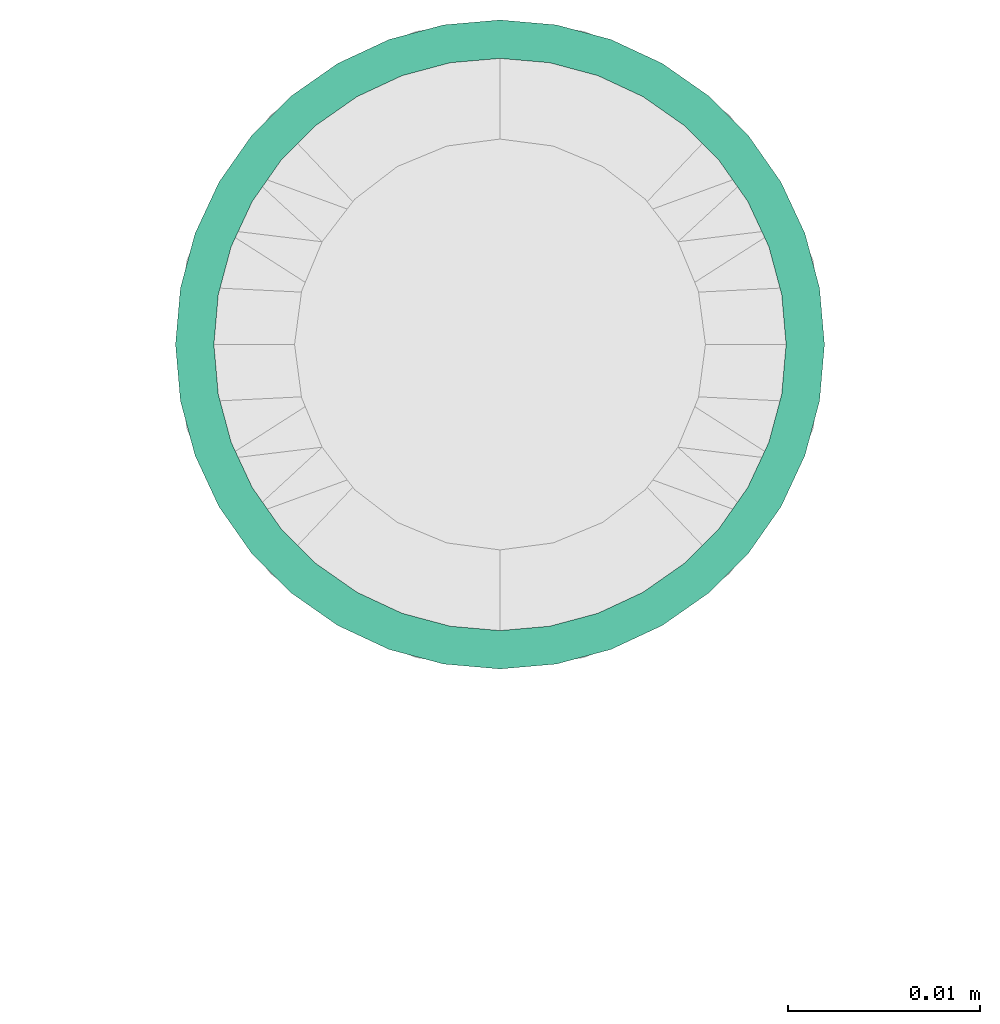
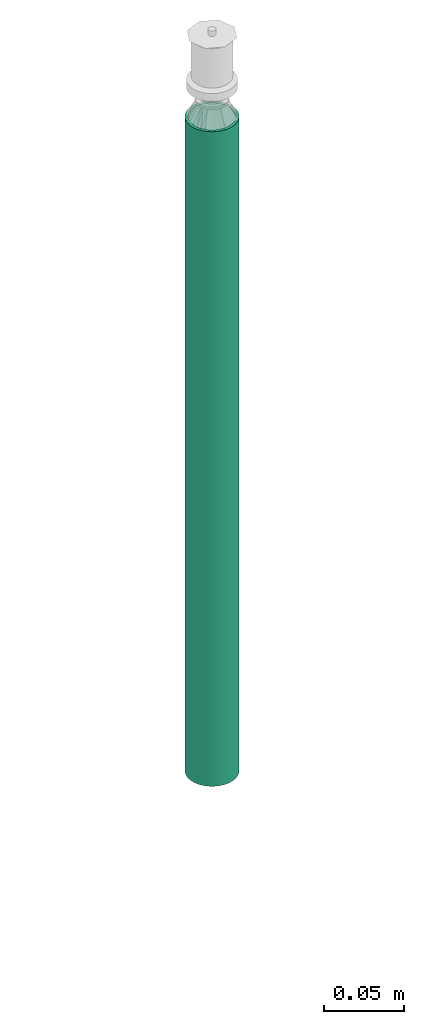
# One storey, part 44 of 44: 1 flow segment.
"""IFC2X3 building model written with IfcOpenShell, lengths in millimetres."""

import ifcopenshell
import ifcopenshell.guid

model = None  # the IFC model being written
_history = None  # IfcOwnerHistory: only IFC2X3 demands one
_inside = {}  # id of a spatial element -> (the spatial element, [elements in it])
_under = {}  # id of a project, library or spatial element -> (it, [spatial elements below it])
_declared = {}  # id of a project -> (the project, [libraries it declares])
_typed = {}  # id of a type object -> (the type object, [elements of that type])
_made_of = {}  # id of a material, layer set ... -> (it, [elements and type objects made of it])


def new_model(schema):
    """Start an empty IFC model of exactly this schema.

    Asked for "IFC4X3", IfcOpenShell would pick the latest addendum, in which some entities
    have other attributes; the version numbers below select the first issue.
    IFC2X3 requires an IfcOwnerHistory on every rooted entity: one is made here for all.
    """
    global model, _history
    if schema == "IFC4X3":
        model = ifcopenshell.file(schema_version=(4, 3, 0, 0))
    else:
        model = ifcopenshell.file(schema=schema)
    _inside.clear()
    _under.clear()
    _declared.clear()
    _typed.clear()
    _made_of.clear()
    _history = None
    if model.schema == "IFC2X3":
        org = make("IfcOrganization", Name="unknown")
        user = make(
            "IfcPersonAndOrganization",
            ThePerson=make("IfcPerson", FamilyName="unknown"),
            TheOrganization=org,
        )
        app = make(
            "IfcApplication",
            ApplicationDeveloper=org,
            Version="unknown",
            ApplicationFullName="unknown",
            ApplicationIdentifier="unknown",
        )
        _history = make(
            "IfcOwnerHistory",
            OwningUser=user,
            OwningApplication=app,
            ChangeAction="ADDED",
            CreationDate=0,
        )
    return model


def make(cls, **values):
    """One entity of the class cls with the attributes given. An attribute that is None is left unset."""
    return model.create_entity(
        cls, **{name: value for name, value in values.items() if value is not None}
    )


def entity(cls, *values):
    """Any entity or typed value of the class cls, its attributes in the order of the schema. None: left unset."""
    e = model.create_entity(cls)
    for i, value in enumerate(values):
        if value is not None:
            e[i] = value
    return e


def rooted(cls, **values):
    """An entity with a GlobalId (a new one), such as an element, a storey or a relation."""
    return make(cls, GlobalId=ifcopenshell.guid.new(), OwnerHistory=_history, **values)


def si_unit(unit_type, name, prefix=None):
    """IfcSIUnit, for example si_unit("LENGTHUNIT", "METRE", prefix="MILLI")."""
    return make("IfcSIUnit", UnitType=unit_type, Prefix=prefix, Name=name)


def converted_unit(unit_type, name, factor, base, dimensions=None, offset=None):
    """IfcConversionBasedUnit, such as the inch: factor (a typed value) times the base unit."""
    return make(
        "IfcConversionBasedUnit"
        if offset is None
        else "IfcConversionBasedUnitWithOffset",
        ConversionOffset=offset,
        Dimensions=None
        if dimensions is None
        else entity("IfcDimensionalExponents", *dimensions),
        UnitType=unit_type,
        Name=name,
        ConversionFactor=make(
            "IfcMeasureWithUnit", ValueComponent=factor, UnitComponent=base
        ),
    )


def derived_unit(unit_type, elements):
    """IfcDerivedUnit: a product of units, each with its exponent."""
    return make(
        "IfcDerivedUnit",
        Elements=[
            make("IfcDerivedUnitElement", Unit=unit, Exponent=power)
            for unit, power in elements
        ],
        UnitType=unit_type,
    )


def assignment(units):
    """IfcUnitAssignment: the units of a project."""
    return None if units is None else make("IfcUnitAssignment", Units=units)


def point(xyz):
    """IfcCartesianPoint."""
    return None if xyz is None else make("IfcCartesianPoint", Coordinates=xyz)


def direction(xyz):
    """IfcDirection."""
    return None if xyz is None else make("IfcDirection", DirectionRatios=xyz)


def frame(location, z_axis=None, x_axis=None):
    """IfcAxis2Placement3D, a coordinate frame: its origin and axes. An axis left out is left unset."""
    return make(
        "IfcAxis2Placement3D",
        Location=point(location),
        Axis=direction(z_axis),
        RefDirection=direction(x_axis),
    )


def place(relative_to, where):
    """IfcLocalPlacement: puts the frame where relative to a parent placement (None: the world)."""
    return make(
        "IfcLocalPlacement", PlacementRelTo=relative_to, RelativePlacement=where
    )


def context(
    kind, dimensions, precision=None, world=None, true_north=None, identifier=None
):
    """IfcGeometricRepresentationContext, for example the 3D "Model" context."""
    return make(
        "IfcGeometricRepresentationContext",
        ContextIdentifier=identifier,
        ContextType=kind,
        CoordinateSpaceDimension=dimensions,
        Precision=precision,
        WorldCoordinateSystem=world,
        TrueNorth=true_north,
    )


def subcontext(parent, identifier, kind, view, scale=None):
    """IfcGeometricRepresentationSubContext, for example "Body" below "Model"."""
    return make(
        "IfcGeometricRepresentationSubContext",
        ContextIdentifier=identifier,
        ContextType=kind,
        ParentContext=parent,
        TargetScale=scale,
        TargetView=view,
    )


def project(units=None, contexts=None):
    """IfcProject with its units and contexts."""
    return rooted(
        "IfcProject",
        Name="project",
        RepresentationContexts=contexts,
        UnitsInContext=assignment(units),
    )


def spatial(cls, under=None, at=None, **own):
    """A site, building, storey or space (cls), placed at a placement, below another one or the project."""
    s = rooted(cls, ObjectPlacement=at, **own)
    if under is not None:
        _under.setdefault(under.id(), (under, []))[1].append(s)
    return s


def faces_of(points, faces, orient=None, outer=None):
    """IfcFace entities. A face is a list of loops; a loop is a list of indices into points, from 0.

    orient and outer hold one flag for each loop. By default every Orientation is true, the
    first loop of a face is its IfcFaceOuterBound and the others are IfcFaceBound.
    """
    made = []
    for i, loops in enumerate(faces):
        bounds = []
        for j, loop in enumerate(loops):
            is_outer = j == 0 if outer is None else outer[i][j]
            bounds.append(
                make(
                    "IfcFaceOuterBound" if is_outer else "IfcFaceBound",
                    Bound=make("IfcPolyLoop", Polygon=[points[k] for k in loop]),
                    Orientation=True if orient is None else orient[i][j],
                )
            )
        made.append(make("IfcFace", Bounds=bounds))
    return made


def faceted_brep(points, faces, orient=None, outer=None, voids=None):
    """IfcFacetedBrep: a solid bounded by flat faces; with voids (closed shells), ...WithVoids."""
    shared = [point(p) for p in points]
    hull = make("IfcClosedShell", CfsFaces=faces_of(shared, faces, orient, outer))
    if voids is None:
        return make("IfcFacetedBrep", Outer=hull)
    return make(
        "IfcFacetedBrepWithVoids",
        Outer=hull,
        Voids=[
            make(cls, CfsFaces=faces_of(shared, fs, o, b)) for cls, fs, o, b in voids
        ],
    )


def shape(context_of_items, identifier, shape_type, items):
    """IfcShapeRepresentation: the items that make up one representation, for example the "Body"."""
    return make(
        "IfcShapeRepresentation",
        ContextOfItems=context_of_items,
        RepresentationIdentifier=identifier,
        RepresentationType=shape_type,
        Items=items,
    )


def made_of(thing, what):
    """Note that an element or type object is made of a material, layer set ...; save() writes the relation."""
    if what is not None:
        _made_of.setdefault(what.id(), (what, []))[1].append(thing)
    return thing


def type_object(cls, material=None, **own):
    """A type object (cls), such as IfcWallType, which elements share."""
    return made_of(rooted(cls, **own), material)


def element(
    cls,
    number,
    at=None,
    inside=None,
    cuts=None,
    type_object=None,
    material=None,
    context=None,
    identifier="Body",
    shape_type=None,
    held_by="IfcProductDefinitionShape",
    body=None,
    shapes=None,
    **own,
):
    """One element of the class cls, such as IfcWall. Its Tag is "e" and its number.

    at: its placement. inside: the storey or other place that contains it. cuts: it is an
    opening in that element (IfcRelVoidsElement). A single representation is given by context,
    identifier, shape_type and body (its items); several are given by shapes. held_by: the class
    of the entity that holds the representations. save() writes the other relations.
    """
    e = rooted(cls, Tag="e%d" % number, ObjectPlacement=at, **own)
    if body is not None:
        shapes = [shape(context, identifier, shape_type, body)]
    if shapes is not None:
        e.Representation = make(held_by, Representations=shapes)
    if inside is not None:
        _inside.setdefault(inside.id(), (inside, []))[1].append(e)
    if cuts is not None:
        rooted(
            "IfcRelVoidsElement", RelatingBuildingElement=cuts, RelatedOpeningElement=e
        )
    if type_object is not None:
        _typed.setdefault(type_object.id(), (type_object, []))[1].append(e)
    return made_of(e, material)


def aggregate(whole, parts):
    """IfcRelAggregates: a whole, such as a stair, and the parts it consists of."""
    return rooted("IfcRelAggregates", RelatingObject=whole, RelatedObjects=parts)


def save(model, path):
    """Write the relations noted so far, then the file.

    IfcRelAggregates (storeys below a building ...), IfcRelContainedInSpatialStructure (elements
    in a storey), IfcRelDefinesByType, IfcRelAssociatesMaterial and IfcRelDeclares: one each for
    every whole, place, type object, material and project.
    """
    for whole, parts in _under.values():
        aggregate(whole, parts)
    for where, things in _inside.values():
        rooted(
            "IfcRelContainedInSpatialStructure",
            RelatedElements=things,
            RelatingStructure=where,
        )
    for kind, things in _typed.values():
        rooted("IfcRelDefinesByType", RelatedObjects=things, RelatingType=kind)
    for what, things in _made_of.values():
        rooted("IfcRelAssociatesMaterial", RelatedObjects=things, RelatingMaterial=what)
    for by, libraries in _declared.values():
        rooted("IfcRelDeclares", RelatingContext=by, RelatedDefinitions=libraries)
    model.write(path)


model = new_model("IFC2X3")

# Units and contexts
model_context = context("Model", 3, precision=0.01, world=frame((0.0, 4.29681676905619e-09, 0.0)), true_north=direction((4.01073788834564e-13, 1.0)))
plan_context = context("Plan", 3, precision=0.01, world=frame((0.0, 4.29681676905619e-09, 0.0)), true_north=direction((4.01073788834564e-13, 1.0)))
body_context = subcontext(model_context, "Body", "Model", "MODEL_VIEW")
ifc_project = project(units=[converted_unit("PLANEANGLEUNIT", "DEGREE", entity("IfcPositiveLengthMeasure", 0.0174532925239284), si_unit("PLANEANGLEUNIT", "RADIAN"), dimensions=[0, 0, 0, 0, 0, 0, 0]), si_unit("AREAUNIT", "SQUARE_METRE"), si_unit("LENGTHUNIT", "METRE", prefix="MILLI"), si_unit("MASSUNIT", "GRAM", prefix="KILO"), si_unit("POWERUNIT", "WATT"), si_unit("PRESSUREUNIT", "PASCAL"), si_unit("FORCEUNIT", "NEWTON", prefix="KILO"), si_unit("ELECTRICVOLTAGEUNIT", "VOLT"), si_unit("ELECTRICCURRENTUNIT", "AMPERE"), si_unit("THERMODYNAMICTEMPERATUREUNIT", "DEGREE_CELSIUS"), si_unit("TIMEUNIT", "SECOND"), si_unit("VOLUMEUNIT", "CUBIC_METRE"), derived_unit("LINEARVELOCITYUNIT", [(si_unit("LENGTHUNIT", "METRE"), 1), (si_unit("TIMEUNIT", "SECOND"), -1)]), derived_unit("VOLUMETRICFLOWRATEUNIT", [(si_unit("VOLUMEUNIT", "CUBIC_METRE"), 1), (si_unit("TIMEUNIT", "SECOND"), -1)]), derived_unit("THERMALTRANSMITTANCEUNIT", [(si_unit("POWERUNIT", "WATT"), 1), (si_unit("THERMODYNAMICTEMPERATUREUNIT", "KELVIN"), -1), (si_unit("AREAUNIT", "SQUARE_METRE"), -1)]), derived_unit("SOUNDPRESSUREUNIT", [(si_unit("PRESSUREUNIT", "PASCAL"), 1)])], contexts=[model_context, plan_context])

# Site, building, storey
site_placement = place(None, frame((0.0, -4.29681676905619e-09, 0.0), z_axis=(0.0, 0.0, 1.0), x_axis=(1.0, 0.0, 0.0)))
site = spatial("IfcSite", under=ifc_project, at=site_placement, CompositionType="ELEMENT")
building_placement = place(site_placement, frame((0.0, 4.29681676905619e-09, 0.0), z_axis=(0.0, 0.0, 1.0), x_axis=(1.0, 0.0, 0.0)))
building = spatial("IfcBuilding", under=site, at=building_placement, Name="mc-building", CompositionType="ELEMENT")
storey_placement = place(building_placement, frame((0.0, 0.0, 207370.0), z_axis=(0.0, 0.0, 1.0), x_axis=(1.0, 0.0, 0.0)))
storey = spatial("IfcBuildingStorey", under=building, at=storey_placement, Name="Nivå E", CompositionType="ELEMENT", Elevation=207370.0)

# Flow segment
pipe_segment_type = type_object("IfcPipeSegmentType", Name="Stålrør normaltykke", PredefinedType="RIGIDSEGMENT")
flow_segment_placement = place(storey_placement, frame((533500.0, 459009.83177, 1961.79999999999), z_axis=(1.0, 0.0, 0.0), x_axis=(0.0, 0.0, 1.0)))
element("IfcFlowSegment", 1, at=flow_segment_placement, inside=storey, type_object=pipe_segment_type, Name="Stålrør normaltykke", context=body_context, shape_type="Brep", body=[
    faceted_brep([(568.200000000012, 14.6736355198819, -2.58735784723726), (568.200000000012, 14.9, 0.0), (1065.8, 14.9, 0.0), (1065.8, 14.6736355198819, -2.58735784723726), (568.200000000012, 14.00142004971, -5.09610013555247), (1065.8, 14.00142004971, -5.09610013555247), (568.200000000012, 12.9037785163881, -7.45), (1065.8, 12.9037785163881, -7.45000000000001), (568.200000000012, 11.4140622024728, -9.57753538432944), (1065.8, 11.4140622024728, -9.57753538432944), (568.200000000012, 9.57753538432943, -11.4140622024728), (1065.8, 9.57753538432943, -11.4140622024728), (568.200000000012, 7.45, -12.9037785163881), (1065.8, 7.45, -12.9037785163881), (568.200000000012, 5.09610013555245, -14.00142004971), (1065.8, 5.09610013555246, -14.00142004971), (568.200000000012, 2.58735784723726, -14.6736355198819), (1065.8, 2.58735784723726, -14.6736355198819), (568.200000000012, -2.73708559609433e-15, -14.9), (1065.8, -2.73708559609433e-15, -14.9), (568.200000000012, -2.58735784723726, -14.6736355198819), (1065.8, -2.58735784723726, -14.6736355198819), (568.200000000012, -5.09610013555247, -14.00142004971), (1065.8, -5.09610013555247, -14.00142004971), (568.200000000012, -7.45, -12.9037785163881), (1065.8, -7.45000000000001, -12.9037785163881), (568.200000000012, -9.57753538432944, -11.4140622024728), (1065.8, -9.57753538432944, -11.4140622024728), (568.200000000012, -11.4140622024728, -9.57753538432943), (1065.8, -11.4140622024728, -9.57753538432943), (568.200000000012, -12.9037785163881, -7.44999999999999), (1065.8, -12.9037785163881, -7.44999999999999), (568.200000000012, -14.00142004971, -5.09610013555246), (1065.8, -14.00142004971, -5.09610013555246), (568.200000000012, -14.6736355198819, -2.58735784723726), (1065.8, -14.6736355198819, -2.58735784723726), (568.200000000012, -14.9, 1.82472373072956e-15), (1065.8, -14.9, 1.82472373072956e-15), (568.200000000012, -14.6736355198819, 2.58735784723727), (1065.8, -14.6736355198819, 2.58735784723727), (568.200000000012, -14.00142004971, 5.09610013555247), (1065.8, -14.00142004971, 5.09610013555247), (568.200000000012, -12.9037785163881, 7.45), (1065.8, -12.9037785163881, 7.45), (568.200000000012, -11.4140622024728, 9.57753538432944), (1065.8, -11.4140622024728, 9.57753538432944), (568.200000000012, -9.57753538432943, 11.4140622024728), (1065.8, -9.57753538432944, 11.4140622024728), (568.200000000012, -7.45, 12.9037785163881), (1065.8, -7.45, 12.9037785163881), (568.200000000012, -5.09610013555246, 14.00142004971), (1065.8, -5.09610013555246, 14.00142004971), (568.200000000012, -2.58735784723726, 14.6736355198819), (1065.8, -2.58735784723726, 14.6736355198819), (568.200000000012, 9.12361865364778e-16, 14.9), (1065.8, 9.12361865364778e-16, 14.9), (568.200000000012, 2.58735784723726, 14.6736355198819), (1065.8, 2.58735784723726, 14.6736355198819), (568.200000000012, 5.09610013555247, 14.00142004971), (1065.8, 5.09610013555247, 14.00142004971), (568.200000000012, 7.45, 12.9037785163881), (1065.8, 7.45, 12.9037785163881), (568.200000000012, 9.57753538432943, 11.4140622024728), (1065.8, 9.57753538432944, 11.4140622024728), (568.200000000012, 11.4140622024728, 9.57753538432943), (1065.8, 11.4140622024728, 9.57753538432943), (568.200000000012, 12.9037785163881, 7.45), (1065.8, 12.9037785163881, 7.45), (568.200000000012, 14.00142004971, 5.09610013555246), (1065.8, 14.00142004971, 5.09610013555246), (568.200000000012, 14.6736355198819, 2.58735784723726), (1065.8, 14.6736355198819, 2.58735784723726), (568.200000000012, 16.9, 0.0), (568.200000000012, 16.6432510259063, -2.93465420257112), (1065.8, 16.6432510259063, -2.93465420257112), (1065.8, 16.9, 0.0), (568.200000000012, 16.6432510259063, 2.93465420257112), (1065.8, 16.6432510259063, 2.93465420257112), (568.200000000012, 15.8808052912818, 5.7801404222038), (1065.8, 15.8808052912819, 5.7801404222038), (568.200000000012, 14.635829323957, 8.45), (1065.8, 14.635829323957, 8.45), (568.200000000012, 12.9461510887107, 10.8631106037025), (1065.8, 12.9461510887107, 10.8631106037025), (568.200000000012, 10.8631106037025, 12.9461510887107), (1065.8, 10.8631106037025, 12.9461510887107), (568.200000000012, 8.45, 14.635829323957), (1065.8, 8.45, 14.635829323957), (568.200000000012, 5.7801404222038, 15.8808052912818), (1065.8, 5.7801404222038, 15.8808052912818), (568.200000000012, 2.93465420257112, 16.6432510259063), (1065.8, 2.93465420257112, 16.6432510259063), (568.200000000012, 1.03482654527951e-15, 16.9), (1065.8, 1.03482654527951e-15, 16.9), (568.200000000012, -2.93465420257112, 16.6432510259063), (1065.8, -2.93465420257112, 16.6432510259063), (568.200000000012, -5.7801404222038, 15.8808052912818), (1065.8, -5.7801404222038, 15.8808052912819), (568.200000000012, -8.45, 14.635829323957), (1065.8, -8.45, 14.635829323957), (568.200000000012, -10.8631106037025, 12.9461510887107), (1065.8, -10.8631106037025, 12.9461510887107), (568.200000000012, -12.9461510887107, 10.8631106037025), (1065.8, -12.9461510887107, 10.8631106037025), (568.200000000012, -14.635829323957, 8.45), (1065.8, -14.635829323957, 8.45), (568.200000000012, -15.8808052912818, 5.7801404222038), (1065.8, -15.8808052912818, 5.7801404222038), (568.200000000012, -16.6432510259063, 2.93465420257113), (1065.8, -16.6432510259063, 2.93465420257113), (568.200000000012, -16.9, 2.06965309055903e-15), (1065.8, -16.9, 2.06965309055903e-15), (568.200000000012, -16.6432510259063, -2.93465420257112), (1065.8, -16.6432510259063, -2.93465420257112), (568.200000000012, -15.8808052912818, -5.7801404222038), (1065.8, -15.8808052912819, -5.7801404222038), (568.200000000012, -14.635829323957, -8.44999999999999), (1065.8, -14.635829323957, -8.44999999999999), (568.200000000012, -12.9461510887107, -10.8631106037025), (1065.8, -12.9461510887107, -10.8631106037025), (568.200000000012, -10.8631106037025, -12.9461510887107), (1065.8, -10.8631106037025, -12.9461510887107), (568.200000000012, -8.45000000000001, -14.635829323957), (1065.8, -8.45000000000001, -14.635829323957), (568.200000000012, -5.78014042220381, -15.8808052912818), (1065.8, -5.78014042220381, -15.8808052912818), (568.200000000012, -2.93465420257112, -16.6432510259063), (1065.8, -2.93465420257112, -16.6432510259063), (568.200000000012, -3.10447963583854e-15, -16.9), (1065.8, -3.10447963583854e-15, -16.9), (568.200000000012, 2.93465420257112, -16.6432510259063), (1065.8, 2.93465420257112, -16.6432510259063), (568.200000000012, 5.78014042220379, -15.8808052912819), (1065.8, 5.78014042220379, -15.8808052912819), (568.200000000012, 8.45, -14.635829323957), (1065.8, 8.45, -14.635829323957), (568.200000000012, 10.8631106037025, -12.9461510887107), (1065.8, 10.8631106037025, -12.9461510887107), (568.200000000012, 12.9461510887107, -10.8631106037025), (1065.8, 12.9461510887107, -10.8631106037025), (568.200000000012, 14.635829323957, -8.45000000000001), (1065.8, 14.635829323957, -8.45000000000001), (568.200000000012, 15.8808052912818, -5.78014042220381), (1065.8, 15.8808052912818, -5.78014042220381)], [[[0, 1, 2, 3]], [[4, 0, 3, 5]], [[6, 4, 5, 7]], [[8, 6, 7, 9]], [[10, 8, 9, 11]], [[12, 10, 11, 13]], [[14, 12, 13, 15]], [[16, 14, 15, 17]], [[18, 16, 17, 19]], [[20, 18, 19, 21]], [[22, 20, 21, 23]], [[24, 22, 23, 25]], [[26, 24, 25, 27]], [[28, 26, 27, 29]], [[30, 28, 29, 31]], [[32, 30, 31, 33]], [[34, 32, 33, 35]], [[36, 34, 35, 37]], [[38, 36, 37, 39]], [[40, 38, 39, 41]], [[42, 40, 41, 43]], [[44, 42, 43, 45]], [[46, 44, 45, 47]], [[48, 46, 47, 49]], [[50, 48, 49, 51]], [[52, 50, 51, 53]], [[54, 52, 53, 55]], [[56, 54, 55, 57]], [[58, 56, 57, 59]], [[60, 58, 59, 61]], [[62, 60, 61, 63]], [[64, 62, 63, 65]], [[66, 64, 65, 67]], [[68, 66, 67, 69]], [[70, 68, 69, 71]], [[1, 70, 71, 2]], [[72, 73, 74, 75]], [[76, 72, 75, 77]], [[78, 76, 77, 79]], [[80, 78, 79, 81]], [[82, 80, 81, 83]], [[84, 82, 83, 85]], [[86, 84, 85, 87]], [[88, 86, 87, 89]], [[90, 88, 89, 91]], [[92, 90, 91, 93]], [[94, 92, 93, 95]], [[96, 94, 95, 97]], [[98, 96, 97, 99]], [[100, 98, 99, 101]], [[102, 100, 101, 103]], [[104, 102, 103, 105]], [[106, 104, 105, 107]], [[108, 106, 107, 109]], [[110, 108, 109, 111]], [[112, 110, 111, 113]], [[114, 112, 113, 115]], [[116, 114, 115, 117]], [[118, 116, 117, 119]], [[120, 118, 119, 121]], [[122, 120, 121, 123]], [[124, 122, 123, 125]], [[126, 124, 125, 127]], [[128, 126, 127, 129]], [[130, 128, 129, 131]], [[132, 130, 131, 133]], [[134, 132, 133, 135]], [[136, 134, 135, 137]], [[138, 136, 137, 139]], [[140, 138, 139, 141]], [[142, 140, 141, 143]], [[73, 142, 143, 74]], [[75, 74, 143, 141, 139, 137, 135, 133, 131, 129, 127, 125, 123, 121, 119, 117, 115, 113, 111, 109, 107, 105, 103, 101, 99, 97, 95, 93, 91, 89, 87, 85, 83, 81, 79, 77], [2, 71, 69, 67, 65, 63, 61, 59, 57, 55, 53, 51, 49, 47, 45, 43, 41, 39, 37, 35, 33, 31, 29, 27, 25, 23, 21, 19, 17, 15, 13, 11, 9, 7, 5, 3]], [[76, 78, 80, 82, 84, 86, 88, 90, 92, 94, 96, 98, 100, 102, 104, 106, 108, 110, 112, 114, 116, 118, 120, 122, 124, 126, 128, 130, 132, 134, 136, 138, 140, 142, 73, 72], [4, 6, 8, 10, 12, 14, 16, 18, 20, 22, 24, 26, 28, 30, 32, 34, 36, 38, 40, 42, 44, 46, 48, 50, 52, 54, 56, 58, 60, 62, 64, 66, 68, 70, 1, 0]]], orient=[[False], [False], [False], [False], [False], [False], [False], [False], [False], [False], [False], [False], [False], [False], [False], [False], [False], [False], [False], [False], [False], [False], [False], [False], [False], [False], [False], [False], [False], [False], [False], [False], [False], [False], [False], [False], [False], [False], [False], [False], [False], [False], [False], [False], [False], [False], [False], [False], [False], [False], [False], [False], [False], [False], [False], [False], [False], [False], [False], [False], [False], [False], [False], [False], [False], [False], [False], [False], [False], [False], [False], [False], [False, False], [False, False]]),
])

save(model, "model.ifc")
